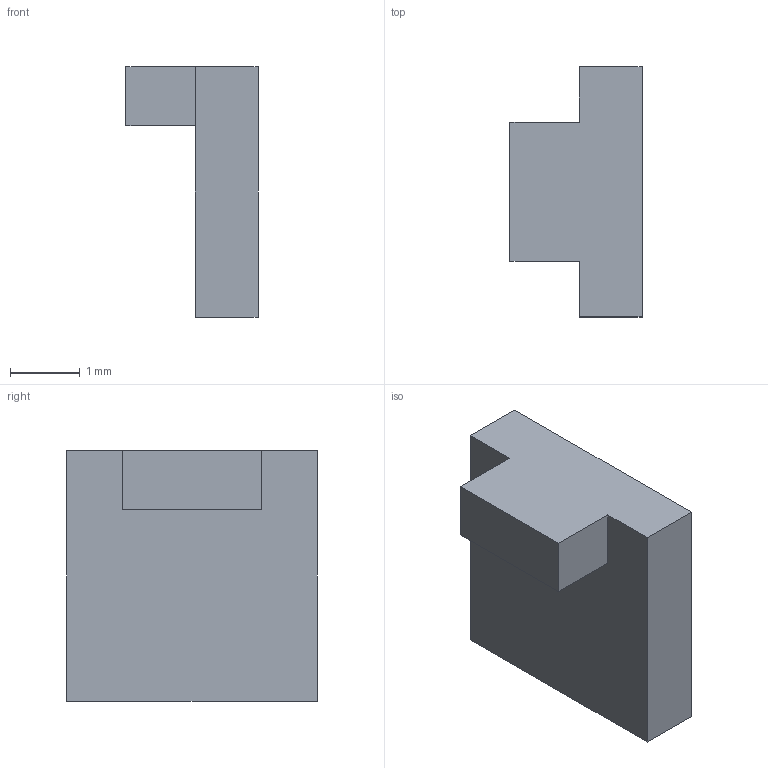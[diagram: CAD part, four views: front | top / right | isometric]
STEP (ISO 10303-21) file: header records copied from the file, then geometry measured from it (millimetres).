
FILE_DESCRIPTION(('Open CASCADE Model'),'2;1');
FILE_NAME('Open CASCADE Shape Model','2026-09-09T11:51:00',('Author'),( 'Open CASCADE'),'Open CASCADE STEP processor 7.7','Open CASCADE 7.7' ,'Unknown');
FILE_SCHEMA(('AUTOMOTIVE_DESIGN { 1 0 10303 214 1 1 1 1 }'));
Length unit declared in the file: millimetre
Products named in the file (1): Open CASCADE STEP translator 7.7 9
Bounding box: 1.9 x 3.6 x 3.6 mm (x, y, z)
Volume: 13.4 mm3; surface area: 44.6 mm2
Topology: 1 solids, 1 shells, 10 faces, 24 edges, 16 vertices
Faces by surface type: plane 10
Entity records: 610 total; most frequent: CARTESIAN_POINT 99, DIRECTION 94, LINE 72, VECTOR 72, ORIENTED_EDGE 48, PCURVE 48, DEFINITIONAL_REPRESENTATION 48, EDGE_CURVE 24
